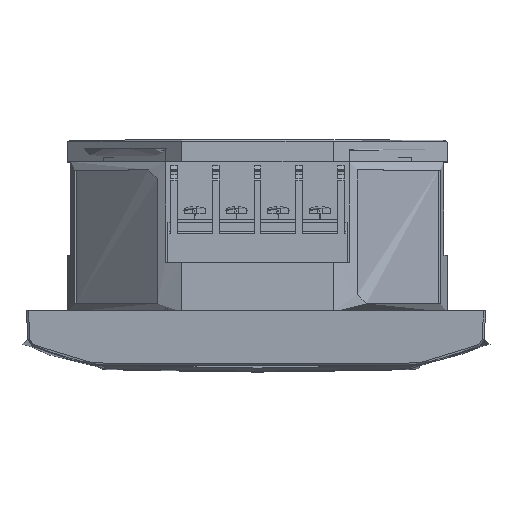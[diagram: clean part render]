
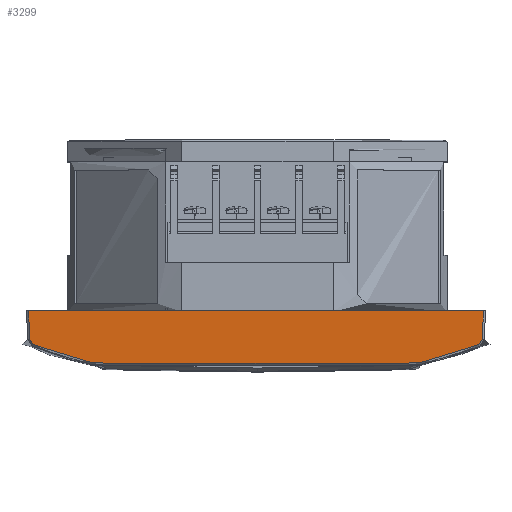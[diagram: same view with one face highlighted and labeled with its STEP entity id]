
A CAD part, top view. The second image highlights one B-rep face of the part: STEP entity #3299.
In plain terms, the highlighted planar face has unit normal (0, -0.052, 0.999) as drawn and (0, 0.052, -0.999) by its records, which use the part's own axes.
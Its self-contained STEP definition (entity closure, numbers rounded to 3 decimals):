
#3299=ADVANCED_FACE('',(#6982),#59199,.T.);
#6982=FACE_OUTER_BOUND('',#10941,.T.);
#10941=EDGE_LOOP('',(#24205,#24206,#24207,#24208,#24209,#24210,#24211,#24212,
#24213,#24214));
#24205=ORIENTED_EDGE('',*,*,#37987,.T.);
#24206=ORIENTED_EDGE('',*,*,#37988,.F.);
#24207=ORIENTED_EDGE('',*,*,#37989,.F.);
#24208=ORIENTED_EDGE('',*,*,#37990,.F.);
#24209=ORIENTED_EDGE('',*,*,#37991,.T.);
#24210=ORIENTED_EDGE('',*,*,#37992,.T.);
#24211=ORIENTED_EDGE('',*,*,#37993,.T.);
#24212=ORIENTED_EDGE('',*,*,#37994,.T.);
#24213=ORIENTED_EDGE('',*,*,#37995,.T.);
#24214=ORIENTED_EDGE('',*,*,#37996,.T.);
#37987=EDGE_CURVE('',#55723,#55602,#46223,.T.);
#37988=EDGE_CURVE('',#55603,#55602,#46224,.T.);
#37989=EDGE_CURVE('',#55719,#55603,#46225,.T.);
#37990=EDGE_CURVE('',#55720,#55719,#46226,.T.);
#37991=EDGE_CURVE('',#55720,#55724,#46227,.T.);
#37992=EDGE_CURVE('',#55724,#55725,#46228,.T.);
#37993=EDGE_CURVE('',#55725,#55726,#46229,.T.);
#37994=EDGE_CURVE('',#55726,#55727,#46230,.T.);
#37995=EDGE_CURVE('',#55727,#55728,#46231,.T.);
#37996=EDGE_CURVE('',#55728,#55723,#46232,.T.);
#46223=B_SPLINE_CURVE_WITH_KNOTS('',3,(#198767,#198768,#198769,#198770),
 .UNSPECIFIED.,.F.,.F.,(4,4),(0.,1.),.UNSPECIFIED.);
#46224=B_SPLINE_CURVE_WITH_KNOTS('',1,(#198771,#198772),.UNSPECIFIED.,.F.,
 .F.,(2,2),(0.,72.472),.UNSPECIFIED.);
#46225=B_SPLINE_CURVE_WITH_KNOTS('',3,(#198773,#198774,#198775,#198776),
 .UNSPECIFIED.,.F.,.F.,(4,4),(0.,1.),.UNSPECIFIED.);
#46226=B_SPLINE_CURVE_WITH_KNOTS('',3,(#198777,#198778,#198779,#198780,
#198781,#198782,#198783,#198784,#198785,#198786,#198787,#198788,#198789,
#198790,#198791,#198792,#198793,#198794,#198795,#198796,#198797,#198798,
#198799,#198800,#198801),.UNSPECIFIED.,.F.,.F.,(4,2,2,2,2,2,1,1,1,1,1,2,
2,2,4),(0.,0.125,0.25,0.375,0.438,
0.469,0.484,0.492,0.496,
0.498,0.499,0.5,0.5,
0.75,1.),.UNSPECIFIED.);
#46227=B_SPLINE_CURVE_WITH_KNOTS('',3,(#198802,#198803,#198804,#198805,
#198806,#198807),.UNSPECIFIED.,.F.,.F.,(4,2,4),(0.,0.5,1.),
 .UNSPECIFIED.);
#46228=B_SPLINE_CURVE_WITH_KNOTS('',1,(#198808,#198809),.UNSPECIFIED.,.F.,
 .F.,(2,2),(0.,6.851),.UNSPECIFIED.);
#46229=B_SPLINE_CURVE_WITH_KNOTS('',1,(#198810,#198811),.UNSPECIFIED.,.F.,
 .F.,(2,2),(0.,109.085),.UNSPECIFIED.);
#46230=B_SPLINE_CURVE_WITH_KNOTS('',1,(#198812,#198813),.UNSPECIFIED.,.F.,
 .F.,(2,2),(0.,6.851),.UNSPECIFIED.);
#46231=B_SPLINE_CURVE_WITH_KNOTS('',3,(#198814,#198815,#198816,#198817,
#198818,#198819,#198820,#198821,#198822,#198823,#198824,#198825,#198826,
#198827,#198828,#198829,#198830,#198831,#198832,#198833),.UNSPECIFIED.,
 .F.,.F.,(4,2,2,2,2,1,1,2,2,2,4),(-1.,-0.5,-0.375,
-0.25,-0.246,-0.242,-0.234,
-0.219,-0.187,-0.125,0.),
 .UNSPECIFIED.);
#46232=B_SPLINE_CURVE_WITH_KNOTS('',3,(#198834,#198835,#198836,#198837,
#198838,#198839),.UNSPECIFIED.,.F.,.F.,(4,2,4),(0.,0.5,1.),
 .UNSPECIFIED.);
#55602=VERTEX_POINT('',#194518);
#55603=VERTEX_POINT('',#194519);
#55719=VERTEX_POINT('',#194635);
#55720=VERTEX_POINT('',#194636);
#55723=VERTEX_POINT('',#194639);
#55724=VERTEX_POINT('',#194640);
#55725=VERTEX_POINT('',#194641);
#55726=VERTEX_POINT('',#194642);
#55727=VERTEX_POINT('',#194643);
#55728=VERTEX_POINT('',#194644);
#59199=PLANE('',#65347);
#65347=AXIS2_PLACEMENT_3D('',#191832,#67588,$);
#67588=DIRECTION('',(0.,0.052,-0.999));
#191832=CARTESIAN_POINT('',(-65.452,-1.254,-55.066));
#194518=CARTESIAN_POINT('',(-36.236,12.526,-54.342));
#194519=CARTESIAN_POINT('',(36.236,12.526,-54.342));
#194635=CARTESIAN_POINT('',(39.915,12.25,-54.357));
#194636=CARTESIAN_POINT('',(53.364,8.106,-54.574));
#194639=CARTESIAN_POINT('',(-39.915,12.25,-54.357));
#194640=CARTESIAN_POINT('',(54.209,6.833,-54.641));
#194641=CARTESIAN_POINT('',(54.543,0.,-55.));
#194642=CARTESIAN_POINT('',(-54.543,0.,-55.));
#194643=CARTESIAN_POINT('',(-54.209,6.833,-54.641));
#194644=CARTESIAN_POINT('',(-53.364,8.106,-54.574));
#198767=CARTESIAN_POINT('',(-39.915,12.25,-54.357));
#198768=CARTESIAN_POINT('',(-38.696,12.434,-54.347));
#198769=CARTESIAN_POINT('',(-37.469,12.526,-54.342));
#198770=CARTESIAN_POINT('',(-36.236,12.526,-54.342));
#198771=CARTESIAN_POINT('',(36.236,12.526,-54.342));
#198772=CARTESIAN_POINT('',(-36.236,12.526,-54.342));
#198773=CARTESIAN_POINT('',(39.915,12.25,-54.357));
#198774=CARTESIAN_POINT('',(38.698,12.434,-54.347));
#198775=CARTESIAN_POINT('',(37.467,12.526,-54.342));
#198776=CARTESIAN_POINT('',(36.236,12.526,-54.342));
#198777=CARTESIAN_POINT('',(53.364,8.106,-54.574));
#198778=CARTESIAN_POINT('',(53.322,8.126,-54.573));
#198779=CARTESIAN_POINT('',(53.159,8.206,-54.569));
#198780=CARTESIAN_POINT('',(52.584,8.474,-54.555));
#198781=CARTESIAN_POINT('',(52.173,8.663,-54.545));
#198782=CARTESIAN_POINT('',(51.092,9.13,-54.521));
#198783=CARTESIAN_POINT('',(50.423,9.407,-54.506));
#198784=CARTESIAN_POINT('',(49.217,9.864,-54.482));
#198785=CARTESIAN_POINT('',(48.781,10.023,-54.474));
#198786=CARTESIAN_POINT('',(48.075,10.266,-54.461));
#198787=CARTESIAN_POINT('',(47.831,10.348,-54.457));
#198788=CARTESIAN_POINT('',(47.452,10.472,-54.45));
#198789=CARTESIAN_POINT('',(47.259,10.535,-54.447));
#198790=CARTESIAN_POINT('',(47.029,10.607,-54.443));
#198791=CARTESIAN_POINT('',(46.912,10.644,-54.441));
#198792=CARTESIAN_POINT('',(46.853,10.662,-54.44));
#198793=CARTESIAN_POINT('',(46.824,10.671,-54.44));
#198794=CARTESIAN_POINT('',(46.811,10.675,-54.44));
#198795=CARTESIAN_POINT('',(46.803,10.678,-54.439));
#198796=CARTESIAN_POINT('',(46.797,10.679,-54.439));
#198797=CARTESIAN_POINT('',(45.446,11.095,-54.417));
#198798=CARTESIAN_POINT('',(44.192,11.417,-54.401));
#198799=CARTESIAN_POINT('',(41.893,11.924,-54.374));
#198800=CARTESIAN_POINT('',(40.848,12.109,-54.364));
#198801=CARTESIAN_POINT('',(39.915,12.25,-54.357));
#198802=CARTESIAN_POINT('',(53.364,8.106,-54.574));
#198803=CARTESIAN_POINT('',(53.607,7.989,-54.581));
#198804=CARTESIAN_POINT('',(53.813,7.809,-54.59));
#198805=CARTESIAN_POINT('',(54.11,7.362,-54.613));
#198806=CARTESIAN_POINT('',(54.195,7.103,-54.627));
#198807=CARTESIAN_POINT('',(54.209,6.833,-54.641));
#198808=CARTESIAN_POINT('',(54.209,6.833,-54.641));
#198809=CARTESIAN_POINT('',(54.543,0.,-55.));
#198810=CARTESIAN_POINT('',(54.543,0.,-55.));
#198811=CARTESIAN_POINT('',(-54.543,0.,-55.));
#198812=CARTESIAN_POINT('',(-54.543,0.,-55.));
#198813=CARTESIAN_POINT('',(-54.209,6.833,-54.641));
#198814=CARTESIAN_POINT('',(-54.209,6.833,-54.641));
#198815=CARTESIAN_POINT('',(-54.196,7.1,-54.627));
#198816=CARTESIAN_POINT('',(-54.11,7.363,-54.613));
#198817=CARTESIAN_POINT('',(-53.925,7.642,-54.599));
#198818=CARTESIAN_POINT('',(-53.886,7.692,-54.596));
#198819=CARTESIAN_POINT('',(-53.798,7.793,-54.591));
#198820=CARTESIAN_POINT('',(-53.75,7.841,-54.588));
#198821=CARTESIAN_POINT('',(-53.696,7.888,-54.586));
#198822=CARTESIAN_POINT('',(-53.692,7.891,-54.586));
#198823=CARTESIAN_POINT('',(-53.686,7.896,-54.585));
#198824=CARTESIAN_POINT('',(-53.677,7.904,-54.585));
#198825=CARTESIAN_POINT('',(-53.657,7.92,-54.584));
#198826=CARTESIAN_POINT('',(-53.641,7.934,-54.583));
#198827=CARTESIAN_POINT('',(-53.608,7.959,-54.582));
#198828=CARTESIAN_POINT('',(-53.587,7.974,-54.581));
#198829=CARTESIAN_POINT('',(-53.529,8.015,-54.579));
#198830=CARTESIAN_POINT('',(-53.494,8.036,-54.578));
#198831=CARTESIAN_POINT('',(-53.407,8.086,-54.575));
#198832=CARTESIAN_POINT('',(-53.372,8.102,-54.575));
#198833=CARTESIAN_POINT('',(-53.364,8.106,-54.574));
#198834=CARTESIAN_POINT('',(-53.364,8.106,-54.574));
#198835=CARTESIAN_POINT('',(-51.235,9.129,-54.521));
#198836=CARTESIAN_POINT('',(-49.044,9.987,-54.476));
#198837=CARTESIAN_POINT('',(-44.544,11.373,-54.403));
#198838=CARTESIAN_POINT('',(-42.251,11.897,-54.375));
#198839=CARTESIAN_POINT('',(-39.915,12.25,-54.357));
